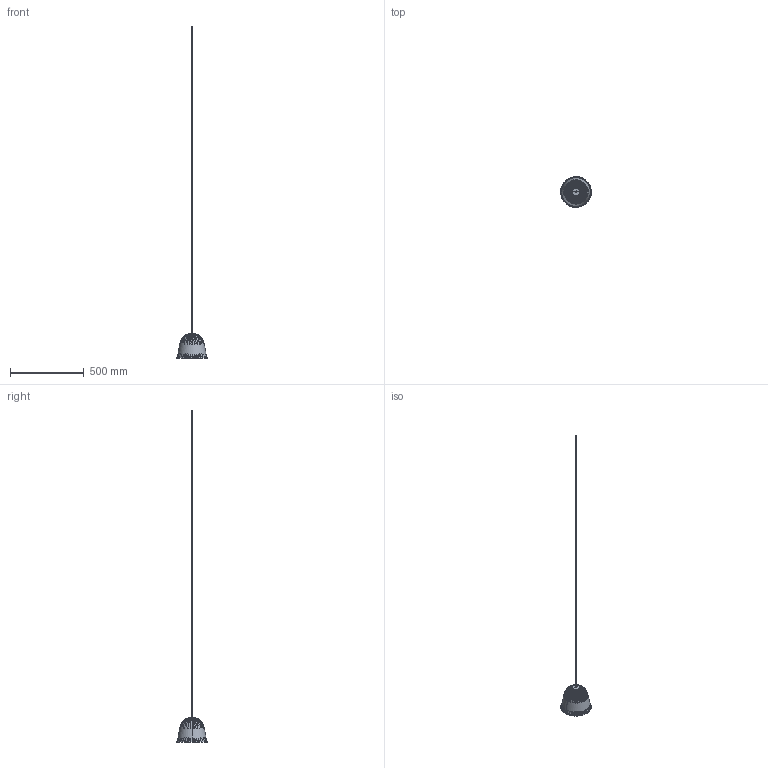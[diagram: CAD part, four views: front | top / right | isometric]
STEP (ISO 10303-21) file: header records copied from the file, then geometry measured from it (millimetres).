
FILE_DESCRIPTION(/* description */ (''),/* implementation_level */ '2;1');
FILE_NAME(/* name */ 'CLOCHE~1',/* time_stamp */ '2015-04-04T16:57:23+02:00',/* author */ (''),/* organization */ (''),/* preprocessor_version */ 'ST-DEVELOPER v14',/* originating_system */ '',/* authorisation */ '');
FILE_SCHEMA (('CONFIG_CONTROL_DESIGN'));
Length unit declared in the file: millimetre
Products named in the file (1): Document
Bounding box: 209.94 x 209.63 x 2250.02 mm (x, y, z)
Volume: 59035.1 mm3; surface area: 235092.4 mm2
Topology: 1 solids, 7 shells, 234 faces, 718 edges, 719 vertices
Faces by surface type: bspline 232, plane 2
Entity records: 15373 total; most frequent: CARTESIAN_POINT 9194, B_SPLINE_CURVE_WITH_KNOTS 1380, ORIENTED_EDGE 928, PCURVE 928, DEFINITIONAL_REPRESENTATION 928, SURFACE_CURVE 474, EDGE_CURVE 474, VERTEX_POINT 244
